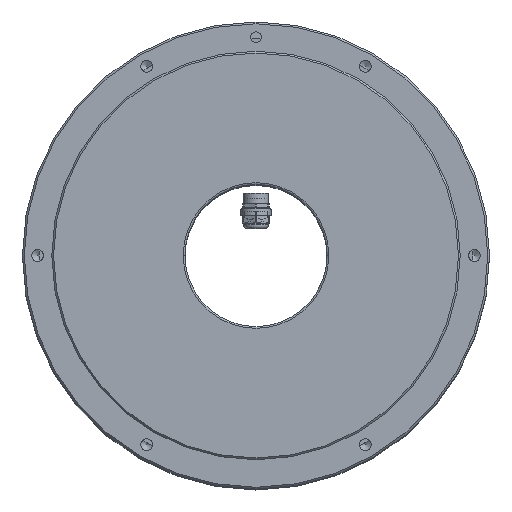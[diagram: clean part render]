
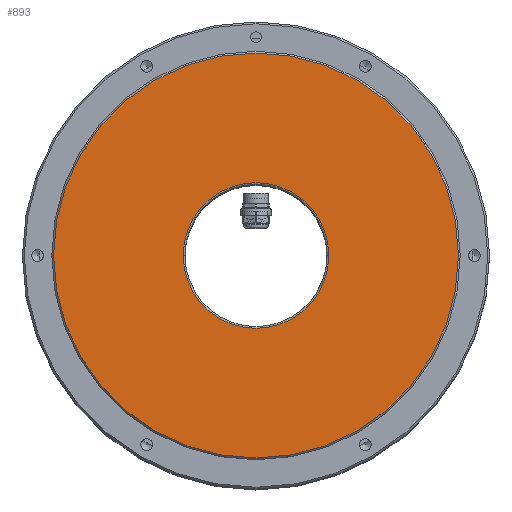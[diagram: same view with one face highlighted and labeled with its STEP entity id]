
A CAD part, top view. The second image highlights one B-rep face of the part: STEP entity #893.
In plain terms, the highlighted planar face has unit normal (0, 0, 1).
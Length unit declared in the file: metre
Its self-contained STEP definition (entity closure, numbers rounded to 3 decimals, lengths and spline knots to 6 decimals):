
#893 = ADVANCED_FACE( '', ( #1446, #1447 ), #1448, .T. );
#1446 = FACE_BOUND( '', #1899, .T. );
#1447 = FACE_OUTER_BOUND( '', #1900, .T. );
#1448 = PLANE( '', #1901 );
#1899 = EDGE_LOOP( '', ( #2470 ) );
#1900 = EDGE_LOOP( '', ( #2471 ) );
#1901 = AXIS2_PLACEMENT_3D( '', #2472, #2473, #2474 );
#2470 = ORIENTED_EDGE( '', *, *, #3415, .T. );
#2471 = ORIENTED_EDGE( '', *, *, #3455, .T. );
#2472 = CARTESIAN_POINT( '', ( -0.115, 0., 0.01 ) );
#2473 = DIRECTION( '', ( 0., 0., 1. ) );
#2474 = DIRECTION( '', ( 1., 0., 0. ) );
#3415 = EDGE_CURVE( '', #3849, #3849, #3850, .F. );
#3455 = EDGE_CURVE( '', #3915, #3915, #3916, .T. );
#3849 = VERTEX_POINT( '', #4285 );
#3850 = CIRCLE( '', #4286, 0.041 );
#3915 = VERTEX_POINT( '', #4398 );
#3916 = CIRCLE( '', #4399, 0.114 );
#4285 = CARTESIAN_POINT( '', ( 0.041, 0., 0.01 ) );
#4286 = AXIS2_PLACEMENT_3D( '', #5055, #5056, #5057 );
#4398 = CARTESIAN_POINT( '', ( 0.114, 0., 0.01 ) );
#4399 = AXIS2_PLACEMENT_3D( '', #5141, #5142, #5143 );
#5055 = CARTESIAN_POINT( '', ( 0., 0., 0.01 ) );
#5056 = DIRECTION( '', ( 0., 0., 1. ) );
#5057 = DIRECTION( '', ( 1., 0., 0. ) );
#5141 = CARTESIAN_POINT( '', ( 0., 0., 0.01 ) );
#5142 = DIRECTION( '', ( 0., 0., 1. ) );
#5143 = DIRECTION( '', ( 1., 0., 0. ) );
